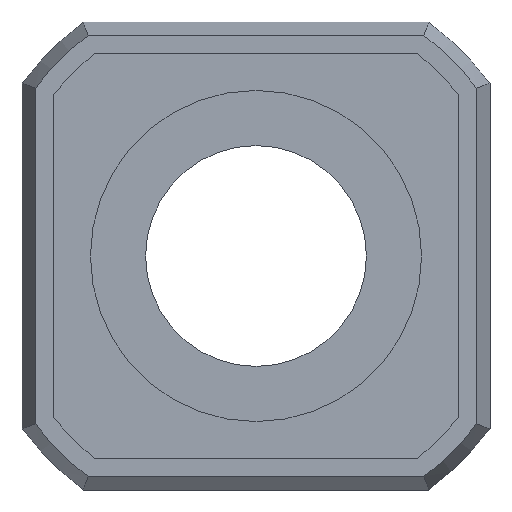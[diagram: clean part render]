
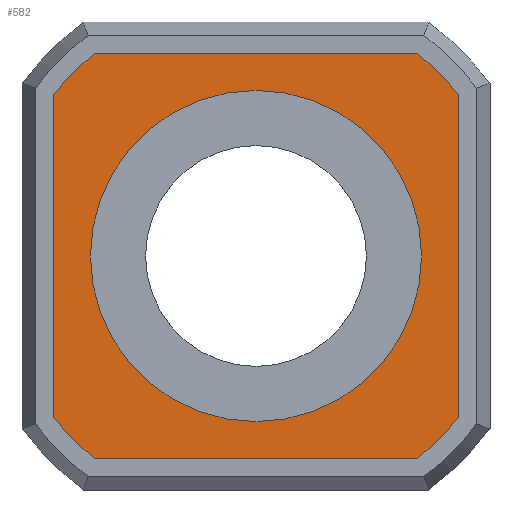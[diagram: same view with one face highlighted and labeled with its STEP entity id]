
A CAD part, front view. The second image highlights one B-rep face of the part: STEP entity #582.
In plain terms, the highlighted planar face has unit normal (0, -1, 0).
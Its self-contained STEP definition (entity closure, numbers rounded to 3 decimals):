
#33=FACE_BOUND('',#127,.T.);
#46=PLANE('',#669);
#88=FACE_OUTER_BOUND('',#126,.T.);
#126=EDGE_LOOP('',(#500,#501,#502,#503,#504,#505,#506,#507));
#127=EDGE_LOOP('',(#508));
#147=LINE('',#917,#183);
#155=LINE('',#953,#191);
#161=LINE('',#981,#197);
#164=LINE('',#994,#200);
#183=VECTOR('',#736,10.);
#191=VECTOR('',#762,10.);
#197=VECTOR('',#784,10.);
#200=VECTOR('',#803,10.);
#216=CIRCLE('',#625,4.25);
#219=CIRCLE('',#631,7.036);
#224=CIRCLE('',#641,7.036);
#228=CIRCLE('',#649,7.036);
#232=CIRCLE('',#658,7.036);
#248=VERTEX_POINT('',#878);
#253=VERTEX_POINT('',#896);
#255=VERTEX_POINT('',#899);
#260=VERTEX_POINT('',#915);
#266=VERTEX_POINT('',#937);
#270=VERTEX_POINT('',#951);
#274=VERTEX_POINT('',#965);
#278=VERTEX_POINT('',#979);
#280=VERTEX_POINT('',#990);
#304=EDGE_CURVE('',#248,#248,#216,.T.);
#310=EDGE_CURVE('',#255,#253,#219,.T.);
#318=EDGE_CURVE('',#253,#260,#147,.T.);
#327=EDGE_CURVE('',#260,#266,#224,.T.);
#333=EDGE_CURVE('',#266,#270,#155,.T.);
#339=EDGE_CURVE('',#270,#274,#228,.T.);
#345=EDGE_CURVE('',#274,#278,#161,.T.);
#351=EDGE_CURVE('',#278,#280,#232,.T.);
#352=EDGE_CURVE('',#280,#255,#164,.T.);
#500=ORIENTED_EDGE('',*,*,#310,.T.);
#501=ORIENTED_EDGE('',*,*,#318,.T.);
#502=ORIENTED_EDGE('',*,*,#327,.T.);
#503=ORIENTED_EDGE('',*,*,#333,.T.);
#504=ORIENTED_EDGE('',*,*,#339,.T.);
#505=ORIENTED_EDGE('',*,*,#345,.T.);
#506=ORIENTED_EDGE('',*,*,#351,.T.);
#507=ORIENTED_EDGE('',*,*,#352,.T.);
#508=ORIENTED_EDGE('',*,*,#304,.T.);
#582=ADVANCED_FACE('',(#88,#33),#46,.T.);
#625=AXIS2_PLACEMENT_3D('',#880,#710,#711);
#631=AXIS2_PLACEMENT_3D('',#900,#723,#724);
#641=AXIS2_PLACEMENT_3D('',#939,#752,#753);
#649=AXIS2_PLACEMENT_3D('',#967,#774,#775);
#658=AXIS2_PLACEMENT_3D('',#992,#799,#800);
#669=AXIS2_PLACEMENT_3D('',#1027,#830,#831);
#710=DIRECTION('center_axis',(0.,1.,0.));
#711=DIRECTION('ref_axis',(-1.,0.,0.));
#723=DIRECTION('center_axis',(0.,-1.,0.));
#724=DIRECTION('ref_axis',(0.805,0.,0.593));
#736=DIRECTION('',(1.,0.,0.));
#752=DIRECTION('center_axis',(0.,-1.,0.));
#753=DIRECTION('ref_axis',(-0.593,0.,0.805));
#762=DIRECTION('',(0.,0.,1.));
#774=DIRECTION('center_axis',(0.,-1.,0.));
#775=DIRECTION('ref_axis',(-1.,0.,0.));
#784=DIRECTION('',(-1.,0.,0.));
#799=DIRECTION('center_axis',(0.,-1.,0.));
#800=DIRECTION('ref_axis',(0.593,0.,-0.805));
#803=DIRECTION('',(0.,0.,-1.));
#830=DIRECTION('center_axis',(0.,-1.,0.));
#831=DIRECTION('ref_axis',(0.,0.,-1.));
#878=CARTESIAN_POINT('',(4.25,-4.,0.));
#880=CARTESIAN_POINT('Origin',(0.,-4.,0.));
#896=CARTESIAN_POINT('',(-4.393,-4.,-5.496));
#899=CARTESIAN_POINT('',(-5.496,-4.,-4.393));
#900=CARTESIAN_POINT('Origin',(0.,-4.,0.));
#915=CARTESIAN_POINT('',(4.393,-4.,-5.496));
#917=CARTESIAN_POINT('',(2.343,-4.,-5.496));
#937=CARTESIAN_POINT('',(5.496,-4.,-4.393));
#939=CARTESIAN_POINT('Origin',(0.,-4.,0.));
#951=CARTESIAN_POINT('',(5.496,-4.,4.393));
#953=CARTESIAN_POINT('',(5.496,-4.,2.343));
#965=CARTESIAN_POINT('',(4.393,-4.,5.496));
#967=CARTESIAN_POINT('Origin',(0.,-4.,0.));
#979=CARTESIAN_POINT('',(-4.393,-4.,5.496));
#981=CARTESIAN_POINT('',(-2.343,-4.,5.496));
#990=CARTESIAN_POINT('',(-5.496,-4.,4.393));
#992=CARTESIAN_POINT('Origin',(0.,-4.,0.));
#994=CARTESIAN_POINT('',(-5.496,-4.,-2.343));
#1027=CARTESIAN_POINT('Origin',(0.,-4.,0.));
